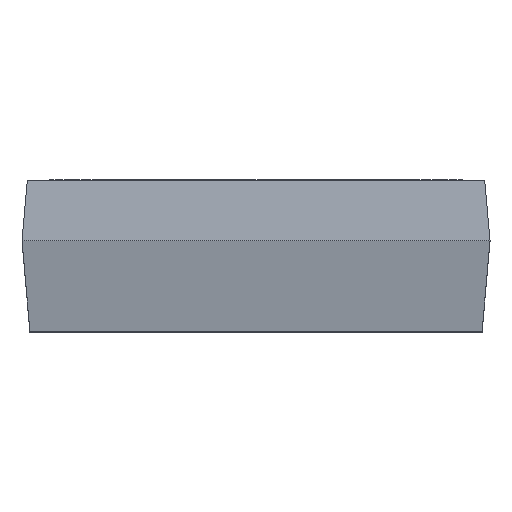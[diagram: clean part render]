
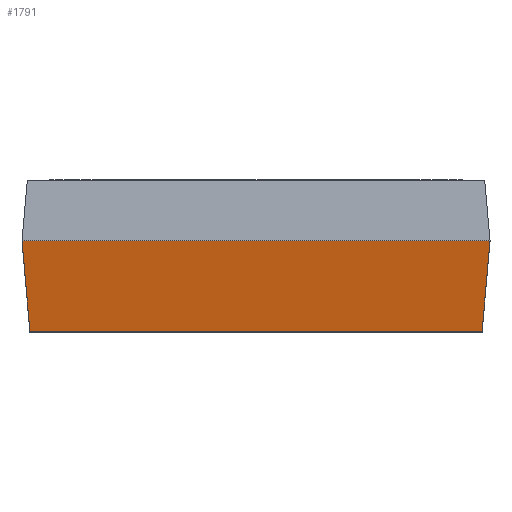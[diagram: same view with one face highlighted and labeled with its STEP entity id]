
A CAD part, top view. The second image highlights one B-rep face of the part: STEP entity #1791.
In plain terms, the highlighted planar face has unit normal (0, -0.174, 0.985).
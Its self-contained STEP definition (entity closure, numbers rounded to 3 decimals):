
#293=ORIENTED_EDGE('',*,*,#493,.F.);
#294=ORIENTED_EDGE('',*,*,#540,.T.);
#295=ORIENTED_EDGE('',*,*,#541,.F.);
#296=ORIENTED_EDGE('',*,*,#542,.T.);
#493=EDGE_CURVE('',#641,#634,#775,.T.);
#540=EDGE_CURVE('',#641,#680,#806,.T.);
#541=EDGE_CURVE('',#681,#680,#807,.T.);
#542=EDGE_CURVE('',#681,#634,#808,.T.);
#634=VERTEX_POINT('',#2425);
#641=VERTEX_POINT('',#2438);
#680=VERTEX_POINT('',#2557);
#681=VERTEX_POINT('',#2559);
#775=LINE('',#2439,#918);
#806=LINE('',#2556,#949);
#807=LINE('',#2558,#950);
#808=LINE('',#2560,#951);
#918=VECTOR('',#2078,1000.);
#949=VECTOR('',#2173,1000.);
#950=VECTOR('',#2174,1000.);
#951=VECTOR('',#2175,1000.);
#1042=EDGE_LOOP('',(#293,#294,#295,#296));
#1129=FACE_BOUND('',#1042,.T.);
#1201=PLANE('',#1893);
#1791=ADVANCED_FACE('',(#1129),#1201,.F.);
#1893=AXIS2_PLACEMENT_3D('',#2555,#2171,#2172);
#2078=DIRECTION('',(-1.,0.,0.));
#2171=DIRECTION('',(0.,0.174,-0.985));
#2172=DIRECTION('',(1.,0.,0.));
#2173=DIRECTION('',(0.086,0.981,0.173));
#2174=DIRECTION('',(1.,0.,0.));
#2175=DIRECTION('',(0.086,-0.981,-0.173));
#2425=CARTESIAN_POINT('',(-7.488,0.,16.751));
#2438=CARTESIAN_POINT('',(7.488,0.,16.751));
#2439=CARTESIAN_POINT('',(0.,0.,16.751));
#2555=CARTESIAN_POINT('',(-7.75,3.,17.28));
#2556=CARTESIAN_POINT('',(7.636,1.695,17.05));
#2557=CARTESIAN_POINT('',(7.75,3.,17.28));
#2558=CARTESIAN_POINT('',(-7.75,3.,17.28));
#2559=CARTESIAN_POINT('',(-7.75,3.,17.28));
#2560=CARTESIAN_POINT('',(-7.75,3.,17.28));
